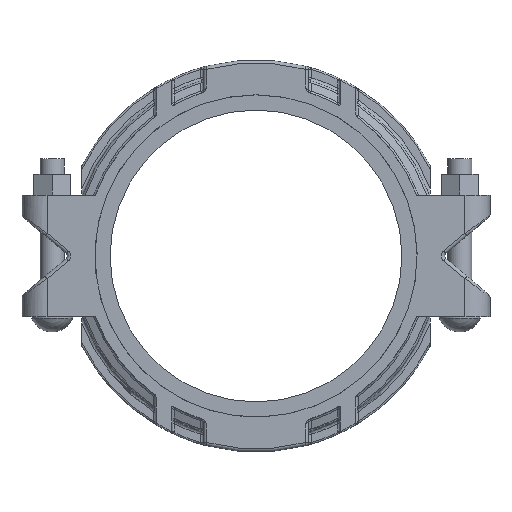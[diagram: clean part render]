
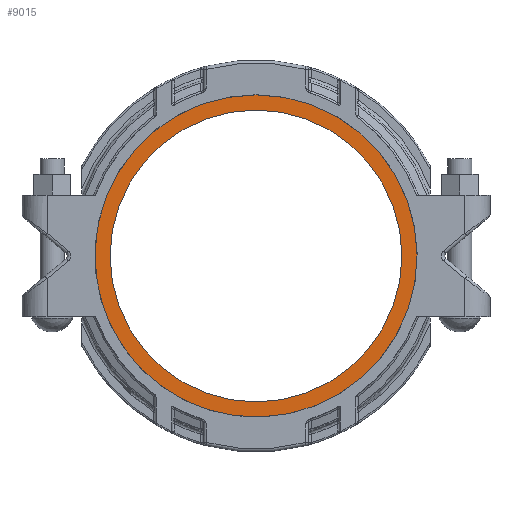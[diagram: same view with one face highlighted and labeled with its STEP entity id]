
A CAD part, top view. The second image highlights one B-rep face of the part: STEP entity #9015.
In plain terms, the highlighted planar face has unit normal (0, 0, 1).
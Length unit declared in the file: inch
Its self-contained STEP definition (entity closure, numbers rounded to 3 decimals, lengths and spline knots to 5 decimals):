
#1715=FACE_BOUND('',#2315,.T.);
#1734=FACE_OUTER_BOUND('',#2314,.T.);
#2314=EDGE_LOOP('',(#5638,#5639));
#2315=EDGE_LOOP('',(#5640));
#2910=CIRCLE('',#9616,6.);
#2911=CIRCLE('',#9618,6.625);
#2912=CIRCLE('',#9619,6.625);
#3483=VERTEX_POINT('',#13109);
#3484=VERTEX_POINT('',#13113);
#3485=VERTEX_POINT('',#13114);
#4277=EDGE_CURVE('',#3483,#3483,#2910,.T.);
#4278=EDGE_CURVE('',#3484,#3485,#2911,.T.);
#4279=EDGE_CURVE('',#3485,#3484,#2912,.T.);
#5638=ORIENTED_EDGE('',*,*,#4278,.F.);
#5639=ORIENTED_EDGE('',*,*,#4279,.F.);
#5640=ORIENTED_EDGE('',*,*,#4277,.T.);
#8349=PLANE('',#9617);
#9015=ADVANCED_FACE('',(#1734,#1715),#8349,.T.);
#9616=AXIS2_PLACEMENT_3D('',#13111,#10656,#10657);
#9617=AXIS2_PLACEMENT_3D('',#13112,#10658,#10659);
#9618=AXIS2_PLACEMENT_3D('',#13115,#10660,#10661);
#9619=AXIS2_PLACEMENT_3D('',#13116,#10662,#10663);
#10656=DIRECTION('center_axis',(0.,0.,-1.));
#10657=DIRECTION('ref_axis',(1.,0.,0.));
#10658=DIRECTION('center_axis',(0.,0.,1.));
#10659=DIRECTION('ref_axis',(-1.,0.,0.));
#10660=DIRECTION('center_axis',(0.,0.,-1.));
#10661=DIRECTION('ref_axis',(0.,-1.,0.));
#10662=DIRECTION('center_axis',(0.,0.,-1.));
#10663=DIRECTION('ref_axis',(0.,-1.,0.));
#13109=CARTESIAN_POINT('',(-6.,0.,0.0325));
#13111=CARTESIAN_POINT('Origin',(0.,0.,
0.0325));
#13112=CARTESIAN_POINT('Origin',(0.,0.,
0.0325));
#13113=CARTESIAN_POINT('',(-6.625,0.,0.0325));
#13114=CARTESIAN_POINT('',(0.,6.625,0.0325));
#13115=CARTESIAN_POINT('Origin',(0.,0.,
0.0325));
#13116=CARTESIAN_POINT('Origin',(0.,0.,
0.0325));
